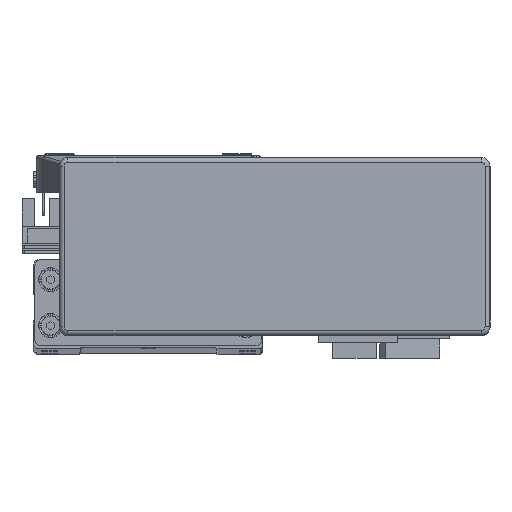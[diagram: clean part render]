
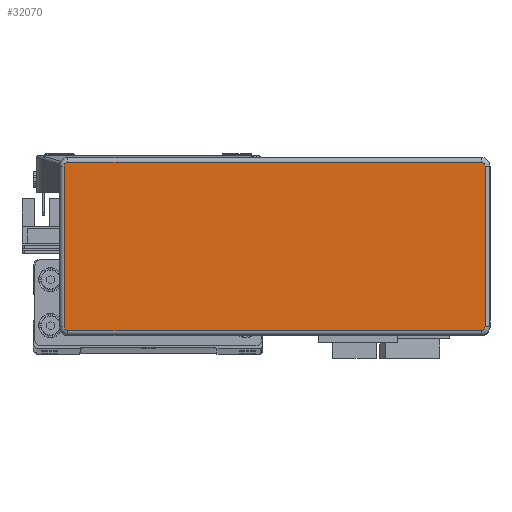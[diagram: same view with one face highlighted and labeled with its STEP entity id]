
A CAD part, top view. The second image highlights one B-rep face of the part: STEP entity #32070.
In plain terms, the highlighted planar face has unit normal (0, 0, 1) as drawn and (0, 0, -1) by its records, which use the part's own axes.
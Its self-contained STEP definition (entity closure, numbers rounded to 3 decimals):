
#1034 = EDGE_LOOP ( 'NONE', ( #25682, #25702, #26546, #25664, #25653, #25745, #25750, #25710 ) ) ;
#2902 = VECTOR ( 'NONE', #3800, 1000. ) ;
#2909 = CIRCLE ( 'NONE', #43658, 1.3 ) ;
#2914 = LINE ( 'NONE', #3823, #2902 ) ;
#2941 = LINE ( 'NONE', #3846, #2958 ) ;
#2958 = VECTOR ( 'NONE', #3856, 1000. ) ;
#2976 = LINE ( 'NONE', #4026, #3018 ) ;
#2984 = CIRCLE ( 'NONE', #43680, 1.3 ) ;
#3013 = VECTOR ( 'NONE', #3817, 1000. ) ;
#3017 = LINE ( 'NONE', #3870, #3013 ) ;
#3018 = VECTOR ( 'NONE', #4057, 1000. ) ;
#3143 = CIRCLE ( 'NONE', #43775, 1.3 ) ;
#3147 = CIRCLE ( 'NONE', #43745, 1.3 ) ;
#3800 = DIRECTION ( 'NONE',  ( 0., 1., 0. ) ) ;
#3817 = DIRECTION ( 'NONE',  ( 0., -1., 0. ) ) ;
#3823 = CARTESIAN_POINT ( 'NONE',  ( -73.295, -27.995, -32.2 ) ) ;
#3843 = CARTESIAN_POINT ( 'NONE',  ( 71.995, -27.995, -32.2 ) ) ;
#3846 = CARTESIAN_POINT ( 'NONE',  ( 71.995, -29.295, -32.2 ) ) ;
#3853 = DIRECTION ( 'NONE',  ( 0., 0., -1. ) ) ;
#3856 = DIRECTION ( 'NONE',  ( -1., 0., 0. ) ) ;
#3870 = CARTESIAN_POINT ( 'NONE',  ( 73.295, -27.995, -32.2 ) ) ;
#3887 = DIRECTION ( 'NONE',  ( 1., 0., 0. ) ) ;
#3907 = CARTESIAN_POINT ( 'NONE',  ( -71.995, -27.995, -32.2 ) ) ;
#4026 = CARTESIAN_POINT ( 'NONE',  ( 71.995, 29.295, -32.2 ) ) ;
#4050 = DIRECTION ( 'NONE',  ( 1., 0., 0. ) ) ;
#4057 = DIRECTION ( 'NONE',  ( 1., 0., 0. ) ) ;
#4066 = DIRECTION ( 'NONE',  ( 0., 0., -1. ) ) ;
#4356 = CARTESIAN_POINT ( 'NONE',  ( 71.995, 27.995, -32.2 ) ) ;
#4401 = DIRECTION ( 'NONE',  ( 0., 0., -1. ) ) ;
#4423 = DIRECTION ( 'NONE',  ( 1., 0., 0. ) ) ;
#4477 = DIRECTION ( 'NONE',  ( 0., 0., -1. ) ) ;
#4488 = CARTESIAN_POINT ( 'NONE',  ( -71.995, 27.995, -32.2 ) ) ;
#4506 = DIRECTION ( 'NONE',  ( 1., 0., 0. ) ) ;
#12391 = EDGE_CURVE ( 'NONE', #26619, #26594, #2941, .T. ) ;
#12393 = EDGE_CURVE ( 'NONE', #26615, #26609, #2914, .T. ) ;
#12395 = EDGE_CURVE ( 'NONE', #26603, #26619, #2909, .T. ) ;
#12404 = EDGE_CURVE ( 'NONE', #26568, #26603, #3017, .T. ) ;
#12418 = EDGE_CURVE ( 'NONE', #26594, #26615, #2984, .T. ) ;
#12421 = EDGE_CURVE ( 'NONE', #26598, #26580, #2976, .T. ) ;
#12495 = EDGE_CURVE ( 'NONE', #26580, #26568, #3143, .T. ) ;
#12516 = EDGE_CURVE ( 'NONE', #26609, #26598, #3147, .T. ) ;
#25653 = ORIENTED_EDGE ( 'NONE', *, *, #12393, .T. ) ;
#25664 = ORIENTED_EDGE ( 'NONE', *, *, #12418, .T. ) ;
#25682 = ORIENTED_EDGE ( 'NONE', *, *, #12404, .T. ) ;
#25702 = ORIENTED_EDGE ( 'NONE', *, *, #12395, .T. ) ;
#25710 = ORIENTED_EDGE ( 'NONE', *, *, #12495, .T. ) ;
#25745 = ORIENTED_EDGE ( 'NONE', *, *, #12516, .T. ) ;
#25750 = ORIENTED_EDGE ( 'NONE', *, *, #12421, .T. ) ;
#26546 = ORIENTED_EDGE ( 'NONE', *, *, #12391, .T. ) ;
#26568 = VERTEX_POINT ( 'NONE', #28056 ) ;
#26580 = VERTEX_POINT ( 'NONE', #28071 ) ;
#26594 = VERTEX_POINT ( 'NONE', #28086 ) ;
#26598 = VERTEX_POINT ( 'NONE', #28097 ) ;
#26603 = VERTEX_POINT ( 'NONE', #28090 ) ;
#26609 = VERTEX_POINT ( 'NONE', #28170 ) ;
#26615 = VERTEX_POINT ( 'NONE', #28155 ) ;
#26619 = VERTEX_POINT ( 'NONE', #28117 ) ;
#28056 = CARTESIAN_POINT ( 'NONE',  ( 73.295, 27.995, -32.2 ) ) ;
#28071 = CARTESIAN_POINT ( 'NONE',  ( 71.995, 29.295, -32.2 ) ) ;
#28086 = CARTESIAN_POINT ( 'NONE',  ( -71.995, -29.295, -32.2 ) ) ;
#28090 = CARTESIAN_POINT ( 'NONE',  ( 73.295, -27.995, -32.2 ) ) ;
#28097 = CARTESIAN_POINT ( 'NONE',  ( -71.995, 29.295, -32.2 ) ) ;
#28117 = CARTESIAN_POINT ( 'NONE',  ( 71.995, -29.295, -32.2 ) ) ;
#28155 = CARTESIAN_POINT ( 'NONE',  ( -73.295, -27.995, -32.2 ) ) ;
#28170 = CARTESIAN_POINT ( 'NONE',  ( -73.295, 27.995, -32.2 ) ) ;
#31313 = AXIS2_PLACEMENT_3D ( 'NONE', #35997, #36017, #36018 ) ;
#32070 = ADVANCED_FACE ( 'NONE', ( #36735 ), #36045, .F. ) ;
#35997 = CARTESIAN_POINT ( 'NONE',  ( 71.995, -27.995, -32.2 ) ) ;
#36017 = DIRECTION ( 'NONE',  ( 0., 0., 1. ) ) ;
#36018 = DIRECTION ( 'NONE',  ( 1., 0., 0. ) ) ;
#36045 = PLANE ( 'NONE',  #31313 ) ;
#36735 = FACE_OUTER_BOUND ( 'NONE', #1034, .T. ) ;
#43658 = AXIS2_PLACEMENT_3D ( 'NONE', #3843, #3853, #3887 ) ;
#43680 = AXIS2_PLACEMENT_3D ( 'NONE', #3907, #4066, #4050 ) ;
#43745 = AXIS2_PLACEMENT_3D ( 'NONE', #4488, #4477, #4506 ) ;
#43775 = AXIS2_PLACEMENT_3D ( 'NONE', #4356, #4401, #4423 ) ;
